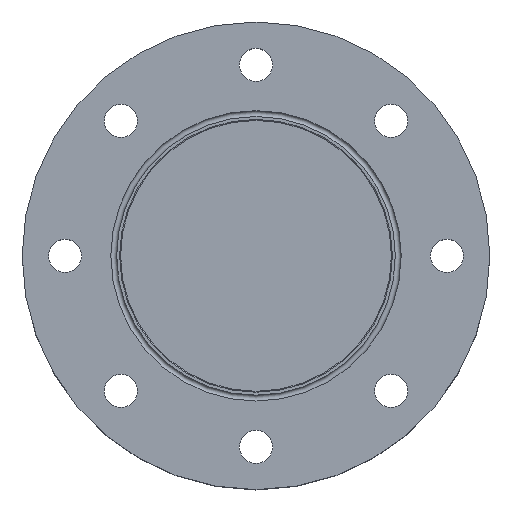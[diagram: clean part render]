
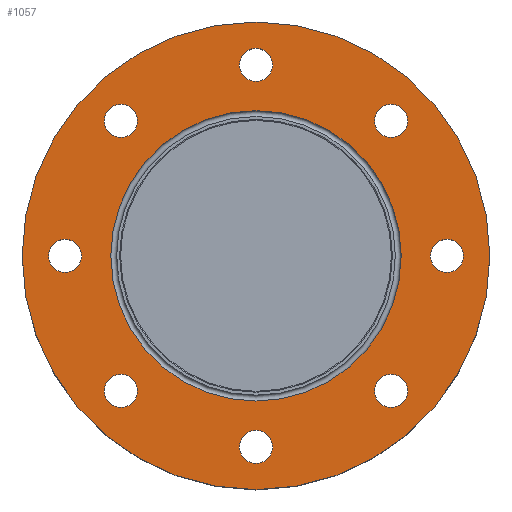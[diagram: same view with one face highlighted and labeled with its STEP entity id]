
A CAD part, top view. The second image highlights one B-rep face of the part: STEP entity #1057.
In plain terms, the highlighted planar face has unit normal (0, 0, 1).
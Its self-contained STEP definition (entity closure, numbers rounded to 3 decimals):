
#66=FACE_BOUND('',#248,.T.);
#67=FACE_BOUND('',#249,.T.);
#68=FACE_BOUND('',#250,.T.);
#69=FACE_BOUND('',#251,.T.);
#70=FACE_BOUND('',#252,.T.);
#71=FACE_BOUND('',#253,.T.);
#72=FACE_BOUND('',#254,.T.);
#73=FACE_BOUND('',#255,.T.);
#74=FACE_BOUND('',#256,.T.);
#87=PLANE('',#1234);
#144=FACE_OUTER_BOUND('',#247,.T.);
#247=EDGE_LOOP('',(#951));
#248=EDGE_LOOP('',(#952));
#249=EDGE_LOOP('',(#953));
#250=EDGE_LOOP('',(#954));
#251=EDGE_LOOP('',(#955));
#252=EDGE_LOOP('',(#956));
#253=EDGE_LOOP('',(#957));
#254=EDGE_LOOP('',(#958));
#255=EDGE_LOOP('',(#959));
#256=EDGE_LOOP('',(#960));
#396=CIRCLE('',#1149,74.5);
#422=CIRCLE('',#1193,8.5);
#424=CIRCLE('',#1197,8.5);
#426=CIRCLE('',#1201,8.5);
#428=CIRCLE('',#1205,8.5);
#430=CIRCLE('',#1209,8.5);
#432=CIRCLE('',#1213,8.5);
#434=CIRCLE('',#1217,8.5);
#436=CIRCLE('',#1221,8.5);
#437=CIRCLE('',#1223,120.);
#493=VERTEX_POINT('',#1726);
#516=VERTEX_POINT('',#1807);
#518=VERTEX_POINT('',#1815);
#520=VERTEX_POINT('',#1823);
#522=VERTEX_POINT('',#1831);
#524=VERTEX_POINT('',#1839);
#526=VERTEX_POINT('',#1847);
#528=VERTEX_POINT('',#1855);
#530=VERTEX_POINT('',#1863);
#531=VERTEX_POINT('',#1867);
#600=EDGE_CURVE('',#493,#493,#396,.T.);
#640=EDGE_CURVE('',#516,#516,#422,.T.);
#644=EDGE_CURVE('',#518,#518,#424,.T.);
#648=EDGE_CURVE('',#520,#520,#426,.T.);
#652=EDGE_CURVE('',#522,#522,#428,.T.);
#656=EDGE_CURVE('',#524,#524,#430,.T.);
#660=EDGE_CURVE('',#526,#526,#432,.T.);
#664=EDGE_CURVE('',#528,#528,#434,.T.);
#668=EDGE_CURVE('',#530,#530,#436,.T.);
#670=EDGE_CURVE('',#531,#531,#437,.T.);
#951=ORIENTED_EDGE('',*,*,#670,.F.);
#952=ORIENTED_EDGE('',*,*,#640,.T.);
#953=ORIENTED_EDGE('',*,*,#644,.T.);
#954=ORIENTED_EDGE('',*,*,#648,.T.);
#955=ORIENTED_EDGE('',*,*,#652,.T.);
#956=ORIENTED_EDGE('',*,*,#656,.T.);
#957=ORIENTED_EDGE('',*,*,#660,.T.);
#958=ORIENTED_EDGE('',*,*,#664,.T.);
#959=ORIENTED_EDGE('',*,*,#668,.T.);
#960=ORIENTED_EDGE('',*,*,#600,.T.);
#1057=ADVANCED_FACE('',(#144,#66,#67,#68,#69,#70,#71,#72,#73,#74),#87,.T.);
#1149=AXIS2_PLACEMENT_3D('',#1728,#1389,#1390);
#1193=AXIS2_PLACEMENT_3D('',#1809,#1491,#1492);
#1197=AXIS2_PLACEMENT_3D('',#1817,#1501,#1502);
#1201=AXIS2_PLACEMENT_3D('',#1825,#1511,#1512);
#1205=AXIS2_PLACEMENT_3D('',#1833,#1521,#1522);
#1209=AXIS2_PLACEMENT_3D('',#1841,#1531,#1532);
#1213=AXIS2_PLACEMENT_3D('',#1849,#1541,#1542);
#1217=AXIS2_PLACEMENT_3D('',#1857,#1551,#1552);
#1221=AXIS2_PLACEMENT_3D('',#1865,#1561,#1562);
#1223=AXIS2_PLACEMENT_3D('',#1869,#1566,#1567);
#1234=AXIS2_PLACEMENT_3D('',#1886,#1591,#1592);
#1389=DIRECTION('center_axis',(0.,0.,-1.));
#1390=DIRECTION('ref_axis',(1.,0.,0.));
#1491=DIRECTION('center_axis',(0.,0.,-1.));
#1492=DIRECTION('ref_axis',(-0.707,-0.707,0.));
#1501=DIRECTION('center_axis',(0.,0.,-1.));
#1502=DIRECTION('ref_axis',(0.,-1.,0.));
#1511=DIRECTION('center_axis',(0.,0.,-1.));
#1512=DIRECTION('ref_axis',(0.707,-0.707,0.));
#1521=DIRECTION('center_axis',(0.,0.,-1.));
#1522=DIRECTION('ref_axis',(1.,0.,0.));
#1531=DIRECTION('center_axis',(0.,0.,-1.));
#1532=DIRECTION('ref_axis',(0.707,0.707,0.));
#1541=DIRECTION('center_axis',(0.,0.,-1.));
#1542=DIRECTION('ref_axis',(0.,1.,0.));
#1551=DIRECTION('center_axis',(0.,0.,-1.));
#1552=DIRECTION('ref_axis',(-0.707,0.707,0.));
#1561=DIRECTION('center_axis',(0.,0.,-1.));
#1562=DIRECTION('ref_axis',(-1.,0.,0.));
#1566=DIRECTION('center_axis',(0.,0.,-1.));
#1567=DIRECTION('ref_axis',(1.,0.,0.));
#1591=DIRECTION('center_axis',(0.,0.,1.));
#1592=DIRECTION('ref_axis',(1.,0.,0.));
#1726=CARTESIAN_POINT('',(0.,-74.5,46.));
#1728=CARTESIAN_POINT('Origin',(0.,0.,46.));
#1807=CARTESIAN_POINT('',(-63.286,75.307,46.));
#1809=CARTESIAN_POINT('Origin',(-69.296,69.296,46.));
#1815=CARTESIAN_POINT('',(-98.,8.5,46.));
#1817=CARTESIAN_POINT('Origin',(-98.,0.,46.));
#1823=CARTESIAN_POINT('',(-75.307,-63.286,46.));
#1825=CARTESIAN_POINT('Origin',(-69.296,-69.296,46.));
#1831=CARTESIAN_POINT('',(-8.5,-98.,46.));
#1833=CARTESIAN_POINT('Origin',(0.,-98.,46.));
#1839=CARTESIAN_POINT('',(63.286,-75.307,46.));
#1841=CARTESIAN_POINT('Origin',(69.296,-69.296,46.));
#1847=CARTESIAN_POINT('',(98.,-8.5,46.));
#1849=CARTESIAN_POINT('Origin',(98.,0.,46.));
#1855=CARTESIAN_POINT('',(75.307,63.286,46.));
#1857=CARTESIAN_POINT('Origin',(69.296,69.296,46.));
#1863=CARTESIAN_POINT('',(8.5,98.,46.));
#1865=CARTESIAN_POINT('Origin',(0.,98.,46.));
#1867=CARTESIAN_POINT('',(0.,-120.,46.));
#1869=CARTESIAN_POINT('Origin',(0.,0.,46.));
#1886=CARTESIAN_POINT('Origin',(0.,120.,46.));
